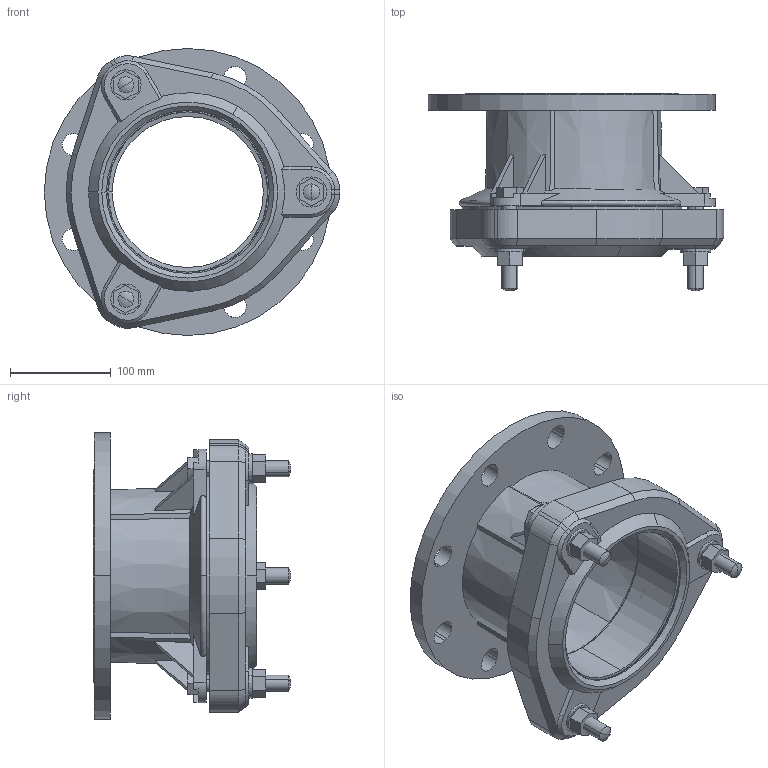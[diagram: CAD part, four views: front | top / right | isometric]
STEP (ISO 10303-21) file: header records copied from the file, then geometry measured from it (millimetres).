
FILE_DESCRIPTION((''),'2;1');
FILE_NAME('BIM_13199_22_ASM','2020-04-01T',('MReader'),(''),'CREO PARAMETRIC BY PTC INC, 2016130','CREO PARAMETRIC BY PTC INC, 2016130','');
FILE_SCHEMA(('CONFIG_CONTROL_DESIGN'));
Length unit declared in the file: millimetre
Products named in the file (5): BIM_13531; 132-2-160-2_GASKET_BIM; BIM_12198_5; BIM_M16_BOLT_90; BIM_13199_22_ASM
Assembly tree (6 placements, depth 2):
  BIM_13199_22_ASM
    BIM_13531
    132-2-160-2_GASKET_BIM
    BIM_12198_5
    BIM_M16_BOLT_90  x3
Bounding box: 293.33 x 196 x 285 mm (x, y, z)
Volume: 2862117.9 mm3; surface area: 553973.1 mm2
Topology: 6 solids, 6 shells, 354 faces, 897 edges, 565 vertices
Faces by surface type: plane 185, cylinder 92, cone 44, torus 18, bspline 9, sphere 6
Entity records: 10456 total; most frequent: CARTESIAN_POINT 2173, DIRECTION 1748, ORIENTED_EDGE 1678, EDGE_CURVE 839, AXIS2_PLACEMENT_3D 625, VERTEX_POINT 531, VECTOR 498, LINE 498
